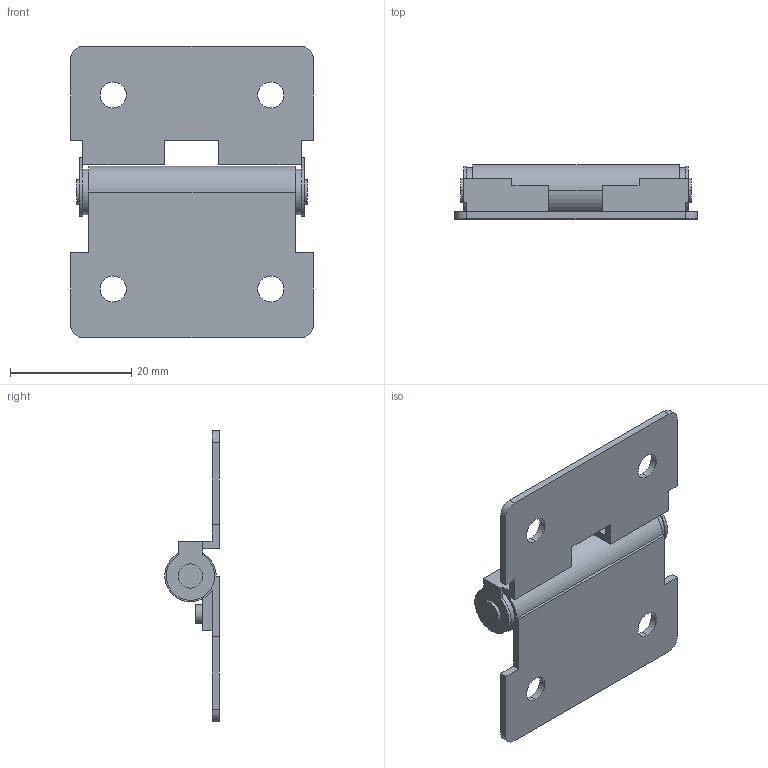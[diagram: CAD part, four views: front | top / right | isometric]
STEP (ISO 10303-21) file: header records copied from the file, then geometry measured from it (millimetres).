
FILE_DESCRIPTION (( 'STEP AP203' ), '1' );
FILE_NAME ('B22-10070.STEP', '2024-10-24T08:33:43', ( '' ), ( '' ), 'SwSTEP 2.0', 'SolidWorks 2021', '' );
FILE_SCHEMA (( 'CONFIG_CONTROL_DESIGN' ));
Length unit declared in the file: millimetre
Products named in the file (4): B22-10070; B22-10070-3; B22-10070-2; B22-10070-1
Assembly tree (3 placements, depth 2):
  B22-10070
    B22-10070-1
    B22-10070-2
    B22-10070-3
Bounding box: 40 x 9 x 48 mm (x, y, z)
Volume: 4298.7 mm3; surface area: 5608.2 mm2
Topology: 3 solids, 3 shells, 84 faces, 217 edges, 144 vertices
Faces by surface type: plane 49, cylinder 35
Entity records: 3019 total; most frequent: DIRECTION 469, CARTESIAN_POINT 451, ORIENTED_EDGE 434, EDGE_CURVE 217, AXIS2_PLACEMENT_3D 162, LINE 145, VECTOR 145, VERTEX_POINT 144
